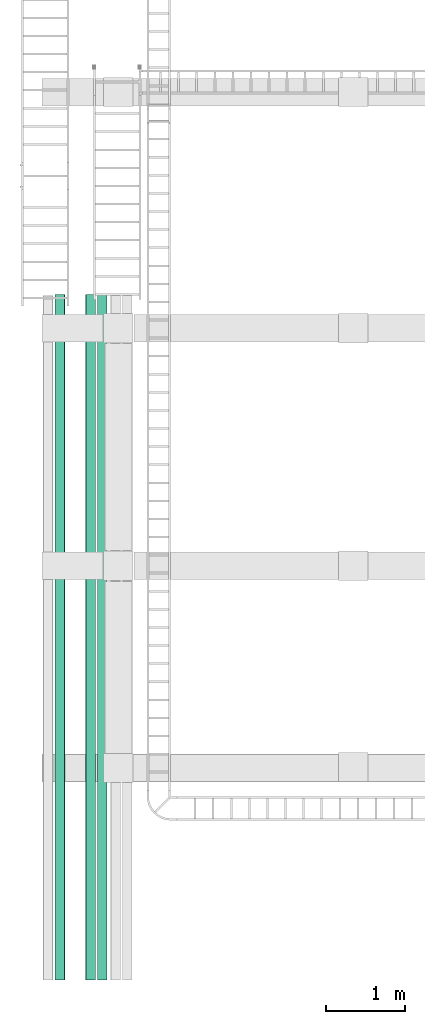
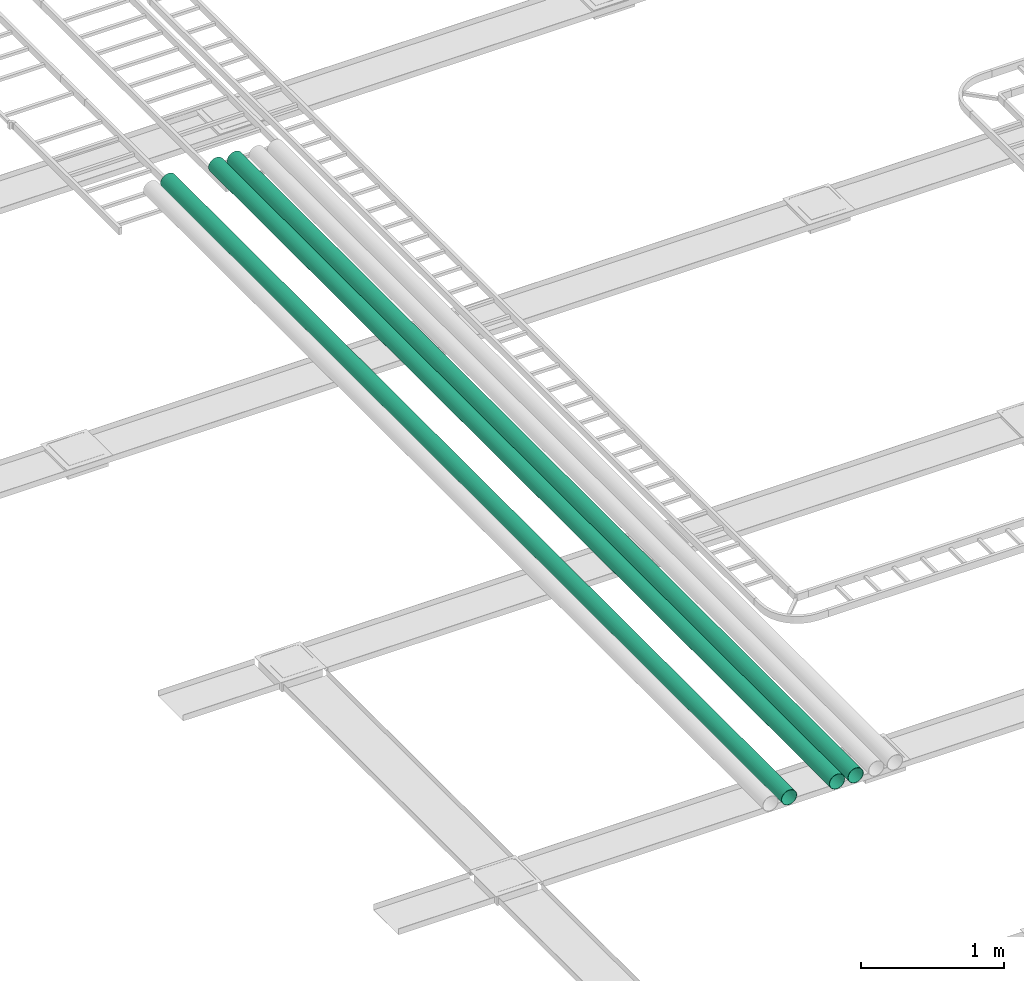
# One storey, part 4 of 16: 3 flow segments.
"""IFC2X3 building model written with IfcOpenShell, lengths in millimetres."""

from ifc_helpers import new_model, entity, si_unit, converted_unit, derived_unit, direction, frame, place, context, subcontext, project, spatial, faceted_brep, type_object, element, save


model = new_model("IFC2X3")

# Units and contexts
model_context = context("Model", 3, precision=0.01, world=frame((0.0, 4.29681676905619e-09, 0.0)), true_north=direction((4.01073788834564e-13, 1.0)))
plan_context = context("Plan", 3, precision=0.01, world=frame((0.0, 4.29681676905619e-09, 0.0)), true_north=direction((4.01073788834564e-13, 1.0)))
body_context = subcontext(model_context, "Body", "Model", "MODEL_VIEW")
ifc_project = project(units=[converted_unit("PLANEANGLEUNIT", "DEGREE", entity("IfcPositiveLengthMeasure", 0.0174532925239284), si_unit("PLANEANGLEUNIT", "RADIAN"), dimensions=[0, 0, 0, 0, 0, 0, 0]), si_unit("AREAUNIT", "SQUARE_METRE"), si_unit("LENGTHUNIT", "METRE", prefix="MILLI"), si_unit("MASSUNIT", "GRAM", prefix="KILO"), si_unit("POWERUNIT", "WATT"), si_unit("PRESSUREUNIT", "PASCAL"), si_unit("FORCEUNIT", "NEWTON", prefix="KILO"), si_unit("ELECTRICVOLTAGEUNIT", "VOLT"), si_unit("ELECTRICCURRENTUNIT", "AMPERE"), si_unit("THERMODYNAMICTEMPERATUREUNIT", "DEGREE_CELSIUS"), si_unit("TIMEUNIT", "SECOND"), si_unit("VOLUMEUNIT", "CUBIC_METRE"), derived_unit("LINEARVELOCITYUNIT", [(si_unit("LENGTHUNIT", "METRE"), 1), (si_unit("TIMEUNIT", "SECOND"), -1)]), derived_unit("VOLUMETRICFLOWRATEUNIT", [(si_unit("VOLUMEUNIT", "CUBIC_METRE"), 1), (si_unit("TIMEUNIT", "SECOND"), -1)]), derived_unit("THERMALTRANSMITTANCEUNIT", [(si_unit("POWERUNIT", "WATT"), 1), (si_unit("THERMODYNAMICTEMPERATUREUNIT", "KELVIN"), -1), (si_unit("AREAUNIT", "SQUARE_METRE"), -1)]), derived_unit("SOUNDPRESSUREUNIT", [(si_unit("PRESSUREUNIT", "PASCAL"), 1)])], contexts=[model_context, plan_context])

# Site, building, storey
site_placement = place(None, frame((0.0, -4.29681676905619e-09, 0.0), z_axis=(0.0, 0.0, 1.0), x_axis=(1.0, 0.0, 0.0)))
site = spatial("IfcSite", under=ifc_project, at=site_placement, Name="ENGM", CompositionType="ELEMENT")
building_placement = place(site_placement, frame((0.0, 4.29681676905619e-09, 0.0), z_axis=(0.0, 0.0, 1.0), x_axis=(1.0, 0.0, 0.0)))
building = spatial("IfcBuilding", under=site, at=building_placement, Name="TS", CompositionType="ELEMENT")
storey_placement = place(building_placement, frame((0.0, 0.0, 210900.0), z_axis=(0.0, 0.0, 1.0), x_axis=(1.0, 0.0, 0.0)))
storey = spatial("IfcBuildingStorey", under=building, at=storey_placement, Name="Nivå F", CompositionType="ELEMENT", Elevation=210900.0)

# Flow segments
cable_carrier_segment_type = type_object("IfcCableCarrierSegmentType", Name="Conduit", PredefinedType="CONDUITSEGMENT")
flow_segment_1_placement = place(storey_placement, frame((520772.72097, 435146.75607, 4100.0), z_axis=(0.0, 0.0, 1.0), x_axis=(0.0, 1.0, 0.0)))
element("IfcFlowSegment", 1, at=flow_segment_1_placement, inside=storey, type_object=cable_carrier_segment_type, Name="Conduit", context=body_context, shape_type="Brep", body=[
    faceted_brep([(5628.24392999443, 59.5808690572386, -10.5057147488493), (5628.24392999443, 60.5, 0.0), (14295.1, 60.5, 0.0), (14295.1, 59.5808690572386, -10.5057147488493), (5628.24392999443, 56.8514035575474, -20.692218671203), (14295.1, 56.8514035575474, -20.692218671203), (5628.24392999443, 52.3945369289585, -30.25), (14295.1, 52.3945369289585, -30.25), (5628.24392999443, 46.3456888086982, -38.8886503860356), (14295.1, 46.3456888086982, -38.8886503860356), (5628.24392999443, 38.8886503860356, -46.3456888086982), (14295.1, 38.8886503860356, -46.3456888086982), (5628.24392999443, 30.25, -52.3945369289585), (14295.1, 30.25, -52.3945369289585), (5628.24392999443, 20.6922186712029, -56.8514035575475), (14295.1, 20.6922186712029, -56.8514035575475), (5628.24392999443, 10.5057147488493, -59.5808690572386), (14295.1, 10.5057147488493, -59.5808690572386), (5628.24392999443, -1.11136697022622e-14, -60.5), (14295.1, -1.11136697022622e-14, -60.5), (5628.24392999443, -10.5057147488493, -59.5808690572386), (14295.1, -10.5057147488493, -59.5808690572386), (5628.24392999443, -20.692218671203, -56.8514035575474), (14295.1, -20.692218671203, -56.8514035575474), (5628.24392999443, -30.25, -52.3945369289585), (14295.1, -30.25, -52.3945369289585), (5628.24392999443, -38.8886503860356, -46.3456888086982), (14295.1, -38.8886503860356, -46.3456888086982), (5628.24392999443, -46.3456888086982, -38.8886503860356), (14295.1, -46.3456888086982, -38.8886503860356), (5628.24392999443, -52.3945369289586, -30.25), (14295.1, -52.3945369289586, -30.25), (5628.24392999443, -56.8514035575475, -20.692218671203), (14295.1, -56.8514035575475, -20.692218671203), (5628.24392999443, -59.5808690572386, -10.5057147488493), (14295.1, -59.5808690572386, -10.5057147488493), (5628.24392999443, -60.5, 7.40911313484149e-15), (14295.1, -60.5, 7.40911313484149e-15), (5628.24392999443, -59.5808690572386, 10.5057147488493), (14295.1, -59.5808690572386, 10.5057147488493), (5628.24392999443, -56.8514035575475, 20.692218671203), (14295.1, -56.8514035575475, 20.692218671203), (5628.24392999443, -52.3945369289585, 30.25), (14295.1, -52.3945369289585, 30.25), (5628.24392999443, -46.3456888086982, 38.8886503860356), (14295.1, -46.3456888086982, 38.8886503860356), (5628.24392999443, -38.8886503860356, 46.3456888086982), (14295.1, -38.8886503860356, 46.3456888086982), (5628.24392999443, -30.25, 52.3945369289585), (14295.1, -30.25, 52.3945369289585), (5628.24392999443, -20.692218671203, 56.8514035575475), (14295.1, -20.692218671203, 56.8514035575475), (5628.24392999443, -10.5057147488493, 59.5808690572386), (14295.1, -10.5057147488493, 59.5808690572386), (5628.24392999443, 3.70455656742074e-15, 60.5), (14295.1, 3.70455656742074e-15, 60.5), (5628.24392999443, 10.5057147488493, 59.5808690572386), (14295.1, 10.5057147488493, 59.5808690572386), (5628.24392999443, 20.692218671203, 56.8514035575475), (14295.1, 20.692218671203, 56.8514035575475), (5628.24392999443, 30.25, 52.3945369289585), (14295.1, 30.25, 52.3945369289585), (5628.24392999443, 38.8886503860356, 46.3456888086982), (14295.1, 38.8886503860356, 46.3456888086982), (5628.24392999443, 46.3456888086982, 38.8886503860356), (14295.1, 46.3456888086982, 38.8886503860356), (5628.24392999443, 52.3945369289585, 30.25), (14295.1, 52.3945369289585, 30.25), (5628.24392999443, 56.8514035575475, 20.692218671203), (14295.1, 56.8514035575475, 20.692218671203), (5628.24392999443, 59.5808690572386, 10.5057147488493), (14295.1, 59.5808690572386, 10.5057147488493), (5628.24392999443, 62.5, 0.0), (5628.24392999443, 61.550484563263, -10.8530111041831), (14295.1, 61.550484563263, -10.8530111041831), (14295.1, 62.5, 0.0), (5628.24392999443, 61.550484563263, 10.8530111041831), (14295.1, 61.550484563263, 10.8530111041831), (5628.24392999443, 58.7307887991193, 21.3762589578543), (14295.1, 58.7307887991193, 21.3762589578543), (5628.24392999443, 54.1265877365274, 31.25), (14295.1, 54.1265877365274, 31.25), (5628.24392999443, 47.8777776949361, 40.1742256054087), (14295.1, 47.8777776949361, 40.1742256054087), (5628.24392999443, 40.1742256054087, 47.8777776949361), (14295.1, 40.1742256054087, 47.8777776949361), (5628.24392999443, 31.25, 54.1265877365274), (14295.1, 31.25, 54.1265877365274), (5628.24392999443, 21.3762589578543, 58.7307887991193), (14295.1, 21.3762589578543, 58.7307887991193), (5628.24392999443, 10.8530111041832, 61.550484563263), (14295.1, 10.8530111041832, 61.550484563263), (5628.24392999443, 3.82702124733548e-15, 62.5), (14295.1, 3.82702124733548e-15, 62.5), (5628.24392999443, -10.8530111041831, 61.550484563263), (14295.1, -10.8530111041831, 61.550484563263), (5628.24392999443, -21.3762589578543, 58.7307887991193), (14295.1, -21.3762589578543, 58.7307887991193), (5628.24392999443, -31.25, 54.1265877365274), (14295.1, -31.25, 54.1265877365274), (5628.24392999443, -40.1742256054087, 47.8777776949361), (14295.1, -40.1742256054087, 47.8777776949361), (5628.24392999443, -47.8777776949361, 40.1742256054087), (14295.1, -47.8777776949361, 40.1742256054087), (5628.24392999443, -54.1265877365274, 31.25), (14295.1, -54.1265877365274, 31.25), (5628.24392999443, -58.7307887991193, 21.3762589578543), (14295.1, -58.7307887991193, 21.3762589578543), (5628.24392999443, -61.550484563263, 10.8530111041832), (14295.1, -61.550484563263, 10.8530111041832), (5628.24392999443, -62.5, 7.65404249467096e-15), (14295.1, -62.5, 7.65404249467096e-15), (5628.24392999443, -61.550484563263, -10.8530111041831), (14295.1, -61.550484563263, -10.8530111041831), (5628.24392999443, -58.7307887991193, -21.3762589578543), (14295.1, -58.7307887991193, -21.3762589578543), (5628.24392999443, -54.1265877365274, -31.25), (14295.1, -54.1265877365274, -31.25), (5628.24392999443, -47.8777776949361, -40.1742256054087), (14295.1, -47.8777776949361, -40.1742256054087), (5628.24392999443, -40.1742256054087, -47.8777776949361), (14295.1, -40.1742256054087, -47.8777776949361), (5628.24392999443, -31.25, -54.1265877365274), (14295.1, -31.25, -54.1265877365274), (5628.24392999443, -21.3762589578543, -58.7307887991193), (14295.1, -21.3762589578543, -58.7307887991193), (5628.24392999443, -10.8530111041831, -61.550484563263), (14295.1, -10.8530111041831, -61.550484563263), (5628.24392999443, -1.14810637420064e-14, -62.5), (14295.1, -1.14810637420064e-14, -62.5), (5628.24392999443, 10.8530111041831, -61.550484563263), (14295.1, 10.8530111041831, -61.550484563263), (5628.24392999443, 21.3762589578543, -58.7307887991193), (14295.1, 21.3762589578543, -58.7307887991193), (5628.24392999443, 31.25, -54.1265877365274), (14295.1, 31.25, -54.1265877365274), (5628.24392999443, 40.1742256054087, -47.8777776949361), (14295.1, 40.1742256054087, -47.8777776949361), (5628.24392999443, 47.8777776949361, -40.1742256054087), (14295.1, 47.8777776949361, -40.1742256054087), (5628.24392999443, 54.1265877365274, -31.25), (14295.1, 54.1265877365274, -31.25), (5628.24392999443, 58.7307887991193, -21.3762589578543), (14295.1, 58.7307887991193, -21.3762589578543)], [[[0, 1, 2, 3]], [[4, 0, 3, 5]], [[6, 4, 5, 7]], [[8, 6, 7, 9]], [[10, 8, 9, 11]], [[12, 10, 11, 13]], [[14, 12, 13, 15]], [[16, 14, 15, 17]], [[18, 16, 17, 19]], [[20, 18, 19, 21]], [[22, 20, 21, 23]], [[24, 22, 23, 25]], [[26, 24, 25, 27]], [[28, 26, 27, 29]], [[30, 28, 29, 31]], [[32, 30, 31, 33]], [[34, 32, 33, 35]], [[36, 34, 35, 37]], [[38, 36, 37, 39]], [[40, 38, 39, 41]], [[42, 40, 41, 43]], [[44, 42, 43, 45]], [[46, 44, 45, 47]], [[48, 46, 47, 49]], [[50, 48, 49, 51]], [[52, 50, 51, 53]], [[54, 52, 53, 55]], [[56, 54, 55, 57]], [[58, 56, 57, 59]], [[60, 58, 59, 61]], [[62, 60, 61, 63]], [[64, 62, 63, 65]], [[66, 64, 65, 67]], [[68, 66, 67, 69]], [[70, 68, 69, 71]], [[1, 70, 71, 2]], [[72, 73, 74, 75]], [[76, 72, 75, 77]], [[78, 76, 77, 79]], [[80, 78, 79, 81]], [[82, 80, 81, 83]], [[84, 82, 83, 85]], [[86, 84, 85, 87]], [[88, 86, 87, 89]], [[90, 88, 89, 91]], [[92, 90, 91, 93]], [[94, 92, 93, 95]], [[96, 94, 95, 97]], [[98, 96, 97, 99]], [[100, 98, 99, 101]], [[102, 100, 101, 103]], [[104, 102, 103, 105]], [[106, 104, 105, 107]], [[108, 106, 107, 109]], [[110, 108, 109, 111]], [[112, 110, 111, 113]], [[114, 112, 113, 115]], [[116, 114, 115, 117]], [[118, 116, 117, 119]], [[120, 118, 119, 121]], [[122, 120, 121, 123]], [[124, 122, 123, 125]], [[126, 124, 125, 127]], [[128, 126, 127, 129]], [[130, 128, 129, 131]], [[132, 130, 131, 133]], [[134, 132, 133, 135]], [[136, 134, 135, 137]], [[138, 136, 137, 139]], [[140, 138, 139, 141]], [[142, 140, 141, 143]], [[73, 142, 143, 74]], [[75, 74, 143, 141, 139, 137, 135, 133, 131, 129, 127, 125, 123, 121, 119, 117, 115, 113, 111, 109, 107, 105, 103, 101, 99, 97, 95, 93, 91, 89, 87, 85, 83, 81, 79, 77], [2, 71, 69, 67, 65, 63, 61, 59, 57, 55, 53, 51, 49, 47, 45, 43, 41, 39, 37, 35, 33, 31, 29, 27, 25, 23, 21, 19, 17, 15, 13, 11, 9, 7, 5, 3]], [[76, 78, 80, 82, 84, 86, 88, 90, 92, 94, 96, 98, 100, 102, 104, 106, 108, 110, 112, 114, 116, 118, 120, 122, 124, 126, 128, 130, 132, 134, 136, 138, 140, 142, 73, 72], [4, 6, 8, 10, 12, 14, 16, 18, 20, 22, 24, 26, 28, 30, 32, 34, 36, 38, 40, 42, 44, 46, 48, 50, 52, 54, 56, 58, 60, 62, 64, 66, 68, 70, 1, 0]]], orient=[[False], [False], [False], [False], [False], [False], [False], [False], [False], [False], [False], [False], [False], [False], [False], [False], [False], [False], [False], [False], [False], [False], [False], [False], [False], [False], [False], [False], [False], [False], [False], [False], [False], [False], [False], [False], [False], [False], [False], [False], [False], [False], [False], [False], [False], [False], [False], [False], [False], [False], [False], [False], [False], [False], [False], [False], [False], [False], [False], [False], [False], [False], [False], [False], [False], [False], [False], [False], [False], [False], [False], [False], [False, False], [False, False]]),
])
flow_segment_2_placement = place(storey_placement, frame((521159.06901, 449441.84531, 4100.0), z_axis=(0.0, 0.0, 1.0), x_axis=(0.0, -1.0, 0.0)))
element("IfcFlowSegment", 2, at=flow_segment_2_placement, inside=storey, type_object=cable_carrier_segment_type, Name="Conduit", context=body_context, shape_type="Brep", body=[
    faceted_brep([(8666.84531000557, 60.5, 0.0), (8666.84531000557, 59.5808690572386, -10.5057147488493), (0.0, 59.5808690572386, -10.5057147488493), (0.0, 60.5, 0.0), (8666.84531000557, 56.8514035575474, -20.692218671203), (0.0, 56.8514035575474, -20.692218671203), (8666.84531000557, 52.3945369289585, -30.25), (0.0, 52.3945369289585, -30.25), (8666.84531000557, 46.3456888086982, -38.8886503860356), (0.0, 46.3456888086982, -38.8886503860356), (8666.84531000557, 38.8886503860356, -46.3456888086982), (0.0, 38.8886503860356, -46.3456888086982), (8666.84531000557, 30.25, -52.3945369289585), (0.0, 30.25, -52.3945369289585), (8666.84531000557, 20.6922186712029, -56.8514035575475), (0.0, 20.6922186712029, -56.8514035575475), (8666.84531000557, 10.5057147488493, -59.5808690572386), (0.0, 10.5057147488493, -59.5808690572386), (8666.84531000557, -1.11136697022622e-14, -60.5), (0.0, -1.11136697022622e-14, -60.5), (8666.84531000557, -10.5057147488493, -59.5808690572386), (0.0, -10.5057147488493, -59.5808690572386), (8666.84531000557, -20.692218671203, -56.8514035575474), (0.0, -20.692218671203, -56.8514035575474), (8666.84531000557, -30.25, -52.3945369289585), (0.0, -30.25, -52.3945369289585), (8666.84531000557, -38.8886503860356, -46.3456888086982), (0.0, -38.8886503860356, -46.3456888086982), (8666.84531000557, -46.3456888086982, -38.8886503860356), (0.0, -46.3456888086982, -38.8886503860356), (8666.84531000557, -52.3945369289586, -30.25), (0.0, -52.3945369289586, -30.25), (8666.84531000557, -56.8514035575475, -20.692218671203), (0.0, -56.8514035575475, -20.692218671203), (8666.84531000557, -59.5808690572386, -10.5057147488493), (0.0, -59.5808690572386, -10.5057147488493), (8666.84531000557, -60.5, 7.40911313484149e-15), (0.0, -60.5, 7.40911313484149e-15), (8666.84531000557, -59.5808690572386, 10.5057147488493), (0.0, -59.5808690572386, 10.5057147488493), (8666.84531000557, -56.8514035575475, 20.692218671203), (0.0, -56.8514035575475, 20.692218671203), (8666.84531000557, -52.3945369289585, 30.25), (0.0, -52.3945369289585, 30.25), (8666.84531000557, -46.3456888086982, 38.8886503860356), (0.0, -46.3456888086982, 38.8886503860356), (8666.84531000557, -38.8886503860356, 46.3456888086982), (0.0, -38.8886503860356, 46.3456888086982), (8666.84531000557, -30.25, 52.3945369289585), (0.0, -30.25, 52.3945369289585), (8666.84531000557, -20.692218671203, 56.8514035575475), (0.0, -20.692218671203, 56.8514035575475), (8666.84531000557, -10.5057147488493, 59.5808690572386), (0.0, -10.5057147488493, 59.5808690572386), (8666.84531000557, 3.70455656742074e-15, 60.5), (0.0, 3.70455656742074e-15, 60.5), (8666.84531000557, 10.5057147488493, 59.5808690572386), (0.0, 10.5057147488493, 59.5808690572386), (8666.84531000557, 20.692218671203, 56.8514035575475), (0.0, 20.692218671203, 56.8514035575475), (8666.84531000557, 30.25, 52.3945369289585), (0.0, 30.25, 52.3945369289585), (8666.84531000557, 38.8886503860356, 46.3456888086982), (0.0, 38.8886503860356, 46.3456888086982), (8666.84531000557, 46.3456888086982, 38.8886503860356), (0.0, 46.3456888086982, 38.8886503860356), (8666.84531000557, 52.3945369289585, 30.25), (0.0, 52.3945369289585, 30.25), (8666.84531000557, 56.8514035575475, 20.692218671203), (0.0, 56.8514035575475, 20.692218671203), (8666.84531000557, 59.5808690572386, 10.5057147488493), (0.0, 59.5808690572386, 10.5057147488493), (8666.84531000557, 61.550484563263, -10.8530111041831), (8666.84531000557, 62.5, 0.0), (0.0, 62.5, 0.0), (0.0, 61.550484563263, -10.8530111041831), (8666.84531000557, 61.550484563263, 10.8530111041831), (0.0, 61.550484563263, 10.8530111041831), (8666.84531000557, 58.7307887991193, 21.3762589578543), (0.0, 58.7307887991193, 21.3762589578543), (8666.84531000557, 54.1265877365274, 31.25), (0.0, 54.1265877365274, 31.25), (8666.84531000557, 47.8777776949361, 40.1742256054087), (0.0, 47.8777776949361, 40.1742256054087), (8666.84531000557, 40.1742256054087, 47.8777776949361), (0.0, 40.1742256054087, 47.8777776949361), (8666.84531000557, 31.25, 54.1265877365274), (0.0, 31.25, 54.1265877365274), (8666.84531000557, 21.3762589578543, 58.7307887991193), (0.0, 21.3762589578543, 58.7307887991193), (8666.84531000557, 10.8530111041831, 61.550484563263), (0.0, 10.8530111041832, 61.550484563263), (8666.84531000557, 3.82702124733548e-15, 62.5), (0.0, 3.82702124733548e-15, 62.5), (8666.84531000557, -10.8530111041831, 61.550484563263), (0.0, -10.8530111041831, 61.550484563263), (8666.84531000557, -21.3762589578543, 58.7307887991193), (0.0, -21.3762589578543, 58.7307887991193), (8666.84531000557, -31.25, 54.1265877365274), (0.0, -31.25, 54.1265877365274), (8666.84531000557, -40.1742256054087, 47.8777776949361), (0.0, -40.1742256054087, 47.8777776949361), (8666.84531000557, -47.8777776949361, 40.1742256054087), (0.0, -47.8777776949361, 40.1742256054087), (8666.84531000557, -54.1265877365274, 31.25), (0.0, -54.1265877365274, 31.25), (8666.84531000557, -58.7307887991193, 21.3762589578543), (0.0, -58.7307887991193, 21.3762589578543), (8666.84531000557, -61.550484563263, 10.8530111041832), (0.0, -61.550484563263, 10.8530111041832), (8666.84531000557, -62.5, 7.65404249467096e-15), (0.0, -62.5, 7.65404249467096e-15), (8666.84531000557, -61.550484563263, -10.8530111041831), (0.0, -61.550484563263, -10.8530111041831), (8666.84531000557, -58.7307887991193, -21.3762589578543), (0.0, -58.7307887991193, -21.3762589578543), (8666.84531000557, -54.1265877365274, -31.25), (0.0, -54.1265877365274, -31.25), (8666.84531000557, -47.8777776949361, -40.1742256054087), (0.0, -47.8777776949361, -40.1742256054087), (8666.84531000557, -40.1742256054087, -47.8777776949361), (0.0, -40.1742256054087, -47.8777776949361), (8666.84531000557, -31.25, -54.1265877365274), (0.0, -31.25, -54.1265877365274), (8666.84531000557, -21.3762589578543, -58.7307887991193), (0.0, -21.3762589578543, -58.7307887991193), (8666.84531000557, -10.8530111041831, -61.550484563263), (0.0, -10.8530111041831, -61.550484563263), (8666.84531000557, -1.14810637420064e-14, -62.5), (0.0, -1.14810637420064e-14, -62.5), (8666.84531000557, 10.8530111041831, -61.550484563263), (0.0, 10.8530111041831, -61.550484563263), (8666.84531000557, 21.3762589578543, -58.7307887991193), (0.0, 21.3762589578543, -58.7307887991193), (8666.84531000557, 31.25, -54.1265877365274), (0.0, 31.25, -54.1265877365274), (8666.84531000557, 40.1742256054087, -47.8777776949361), (0.0, 40.1742256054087, -47.8777776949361), (8666.84531000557, 47.8777776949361, -40.1742256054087), (0.0, 47.8777776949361, -40.1742256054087), (8666.84531000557, 54.1265877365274, -31.25), (0.0, 54.1265877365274, -31.25), (8666.84531000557, 58.7307887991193, -21.3762589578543), (0.0, 58.7307887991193, -21.3762589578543)], [[[0, 1, 2, 3]], [[1, 4, 5, 2]], [[4, 6, 7, 5]], [[6, 8, 9, 7]], [[8, 10, 11, 9]], [[10, 12, 13, 11]], [[12, 14, 15, 13]], [[14, 16, 17, 15]], [[16, 18, 19, 17]], [[18, 20, 21, 19]], [[20, 22, 23, 21]], [[22, 24, 25, 23]], [[24, 26, 27, 25]], [[26, 28, 29, 27]], [[28, 30, 31, 29]], [[30, 32, 33, 31]], [[32, 34, 35, 33]], [[34, 36, 37, 35]], [[36, 38, 39, 37]], [[38, 40, 41, 39]], [[40, 42, 43, 41]], [[42, 44, 45, 43]], [[44, 46, 47, 45]], [[46, 48, 49, 47]], [[48, 50, 51, 49]], [[50, 52, 53, 51]], [[52, 54, 55, 53]], [[54, 56, 57, 55]], [[56, 58, 59, 57]], [[58, 60, 61, 59]], [[60, 62, 63, 61]], [[62, 64, 65, 63]], [[64, 66, 67, 65]], [[66, 68, 69, 67]], [[68, 70, 71, 69]], [[70, 0, 3, 71]], [[72, 73, 74, 75]], [[73, 76, 77, 74]], [[76, 78, 79, 77]], [[78, 80, 81, 79]], [[80, 82, 83, 81]], [[82, 84, 85, 83]], [[84, 86, 87, 85]], [[86, 88, 89, 87]], [[88, 90, 91, 89]], [[90, 92, 93, 91]], [[92, 94, 95, 93]], [[94, 96, 97, 95]], [[96, 98, 99, 97]], [[98, 100, 101, 99]], [[100, 102, 103, 101]], [[102, 104, 105, 103]], [[104, 106, 107, 105]], [[106, 108, 109, 107]], [[108, 110, 111, 109]], [[110, 112, 113, 111]], [[112, 114, 115, 113]], [[114, 116, 117, 115]], [[116, 118, 119, 117]], [[118, 120, 121, 119]], [[120, 122, 123, 121]], [[122, 124, 125, 123]], [[124, 126, 127, 125]], [[126, 128, 129, 127]], [[128, 130, 131, 129]], [[130, 132, 133, 131]], [[132, 134, 135, 133]], [[134, 136, 137, 135]], [[136, 138, 139, 137]], [[138, 140, 141, 139]], [[140, 142, 143, 141]], [[142, 72, 75, 143]], [[75, 74, 77, 79, 81, 83, 85, 87, 89, 91, 93, 95, 97, 99, 101, 103, 105, 107, 109, 111, 113, 115, 117, 119, 121, 123, 125, 127, 129, 131, 133, 135, 137, 139, 141, 143], [3, 2, 5, 7, 9, 11, 13, 15, 17, 19, 21, 23, 25, 27, 29, 31, 33, 35, 37, 39, 41, 43, 45, 47, 49, 51, 53, 55, 57, 59, 61, 63, 65, 67, 69, 71]], [[142, 140, 138, 136, 134, 132, 130, 128, 126, 124, 122, 120, 118, 116, 114, 112, 110, 108, 106, 104, 102, 100, 98, 96, 94, 92, 90, 88, 86, 84, 82, 80, 78, 76, 73, 72], [70, 68, 66, 64, 62, 60, 58, 56, 54, 52, 50, 48, 46, 44, 42, 40, 38, 36, 34, 32, 30, 28, 26, 24, 22, 20, 18, 16, 14, 12, 10, 8, 6, 4, 1, 0]]], orient=[[False], [False], [False], [False], [False], [False], [False], [False], [False], [False], [False], [False], [False], [False], [False], [False], [False], [False], [False], [False], [False], [False], [False], [False], [False], [False], [False], [False], [False], [False], [False], [False], [False], [False], [False], [False], [False], [False], [False], [False], [False], [False], [False], [False], [False], [False], [False], [False], [False], [False], [False], [False], [False], [False], [False], [False], [False], [False], [False], [False], [False], [False], [False], [False], [False], [False], [False], [False], [False], [False], [False], [False], [False, False], [False, False]]),
])
flow_segment_3_placement = place(storey_placement, frame((521309.08776, 449441.70823, 4100.0), z_axis=(0.0, 0.0, 1.0), x_axis=(0.0, -1.0, 0.0)))
element("IfcFlowSegment", 3, at=flow_segment_3_placement, inside=storey, type_object=cable_carrier_segment_type, Name="Conduit", context=body_context, shape_type="Brep", body=[
    faceted_brep([(8666.84531000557, 60.5, 0.0), (8666.84531000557, 59.5808690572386, -10.5057147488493), (0.0, 59.5808690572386, -10.5057147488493), (0.0, 60.5, 0.0), (8666.84531000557, 56.8514035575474, -20.692218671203), (0.0, 56.8514035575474, -20.692218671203), (8666.84531000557, 52.3945369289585, -30.25), (0.0, 52.3945369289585, -30.25), (8666.84531000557, 46.3456888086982, -38.8886503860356), (0.0, 46.3456888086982, -38.8886503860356), (8666.84531000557, 38.8886503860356, -46.3456888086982), (0.0, 38.8886503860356, -46.3456888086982), (8666.84531000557, 30.25, -52.3945369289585), (0.0, 30.25, -52.3945369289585), (8666.84531000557, 20.6922186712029, -56.8514035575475), (0.0, 20.6922186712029, -56.8514035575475), (8666.84531000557, 10.5057147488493, -59.5808690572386), (0.0, 10.5057147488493, -59.5808690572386), (8666.84531000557, -1.11136697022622e-14, -60.5), (0.0, -1.11136697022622e-14, -60.5), (8666.84531000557, -10.5057147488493, -59.5808690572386), (0.0, -10.5057147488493, -59.5808690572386), (8666.84531000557, -20.692218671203, -56.8514035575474), (0.0, -20.692218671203, -56.8514035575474), (8666.84531000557, -30.25, -52.3945369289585), (0.0, -30.25, -52.3945369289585), (8666.84531000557, -38.8886503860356, -46.3456888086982), (0.0, -38.8886503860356, -46.3456888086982), (8666.84531000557, -46.3456888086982, -38.8886503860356), (0.0, -46.3456888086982, -38.8886503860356), (8666.84531000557, -52.3945369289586, -30.25), (0.0, -52.3945369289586, -30.25), (8666.84531000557, -56.8514035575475, -20.692218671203), (0.0, -56.8514035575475, -20.692218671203), (8666.84531000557, -59.5808690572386, -10.5057147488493), (0.0, -59.5808690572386, -10.5057147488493), (8666.84531000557, -60.5, 7.40911313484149e-15), (0.0, -60.5, 7.40911313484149e-15), (8666.84531000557, -59.5808690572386, 10.5057147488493), (0.0, -59.5808690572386, 10.5057147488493), (8666.84531000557, -56.8514035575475, 20.692218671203), (0.0, -56.8514035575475, 20.692218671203), (8666.84531000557, -52.3945369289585, 30.25), (0.0, -52.3945369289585, 30.25), (8666.84531000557, -46.3456888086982, 38.8886503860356), (0.0, -46.3456888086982, 38.8886503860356), (8666.84531000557, -38.8886503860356, 46.3456888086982), (0.0, -38.8886503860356, 46.3456888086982), (8666.84531000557, -30.25, 52.3945369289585), (0.0, -30.25, 52.3945369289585), (8666.84531000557, -20.692218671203, 56.8514035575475), (0.0, -20.692218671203, 56.8514035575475), (8666.84531000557, -10.5057147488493, 59.5808690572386), (0.0, -10.5057147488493, 59.5808690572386), (8666.84531000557, 3.70455656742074e-15, 60.5), (0.0, 3.70455656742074e-15, 60.5), (8666.84531000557, 10.5057147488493, 59.5808690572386), (0.0, 10.5057147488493, 59.5808690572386), (8666.84531000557, 20.692218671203, 56.8514035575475), (0.0, 20.692218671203, 56.8514035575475), (8666.84531000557, 30.25, 52.3945369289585), (0.0, 30.25, 52.3945369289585), (8666.84531000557, 38.8886503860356, 46.3456888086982), (0.0, 38.8886503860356, 46.3456888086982), (8666.84531000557, 46.3456888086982, 38.8886503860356), (0.0, 46.3456888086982, 38.8886503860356), (8666.84531000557, 52.3945369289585, 30.25), (0.0, 52.3945369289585, 30.25), (8666.84531000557, 56.8514035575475, 20.692218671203), (0.0, 56.8514035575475, 20.692218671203), (8666.84531000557, 59.5808690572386, 10.5057147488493), (0.0, 59.5808690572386, 10.5057147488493), (8666.84531000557, 61.550484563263, -10.8530111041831), (8666.84531000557, 62.5, 0.0), (0.0, 62.5, 0.0), (0.0, 61.550484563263, -10.8530111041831), (8666.84531000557, 61.550484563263, 10.8530111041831), (0.0, 61.550484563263, 10.8530111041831), (8666.84531000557, 58.7307887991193, 21.3762589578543), (0.0, 58.7307887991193, 21.3762589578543), (8666.84531000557, 54.1265877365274, 31.25), (0.0, 54.1265877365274, 31.25), (8666.84531000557, 47.8777776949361, 40.1742256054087), (0.0, 47.8777776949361, 40.1742256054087), (8666.84531000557, 40.1742256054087, 47.8777776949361), (0.0, 40.1742256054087, 47.8777776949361), (8666.84531000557, 31.25, 54.1265877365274), (0.0, 31.25, 54.1265877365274), (8666.84531000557, 21.3762589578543, 58.7307887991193), (0.0, 21.3762589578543, 58.7307887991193), (8666.84531000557, 10.8530111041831, 61.550484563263), (0.0, 10.8530111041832, 61.550484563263), (8666.84531000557, 3.82702124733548e-15, 62.5), (0.0, 3.82702124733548e-15, 62.5), (8666.84531000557, -10.8530111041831, 61.550484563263), (0.0, -10.8530111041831, 61.550484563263), (8666.84531000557, -21.3762589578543, 58.7307887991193), (0.0, -21.3762589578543, 58.7307887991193), (8666.84531000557, -31.25, 54.1265877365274), (0.0, -31.25, 54.1265877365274), (8666.84531000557, -40.1742256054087, 47.8777776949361), (0.0, -40.1742256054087, 47.8777776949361), (8666.84531000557, -47.8777776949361, 40.1742256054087), (0.0, -47.8777776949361, 40.1742256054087), (8666.84531000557, -54.1265877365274, 31.25), (0.0, -54.1265877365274, 31.25), (8666.84531000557, -58.7307887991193, 21.3762589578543), (0.0, -58.7307887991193, 21.3762589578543), (8666.84531000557, -61.550484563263, 10.8530111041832), (0.0, -61.550484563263, 10.8530111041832), (8666.84531000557, -62.5, 7.65404249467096e-15), (0.0, -62.5, 7.65404249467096e-15), (8666.84531000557, -61.550484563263, -10.8530111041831), (0.0, -61.550484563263, -10.8530111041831), (8666.84531000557, -58.7307887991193, -21.3762589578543), (0.0, -58.7307887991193, -21.3762589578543), (8666.84531000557, -54.1265877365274, -31.25), (0.0, -54.1265877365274, -31.25), (8666.84531000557, -47.8777776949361, -40.1742256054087), (0.0, -47.8777776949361, -40.1742256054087), (8666.84531000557, -40.1742256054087, -47.8777776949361), (0.0, -40.1742256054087, -47.8777776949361), (8666.84531000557, -31.25, -54.1265877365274), (0.0, -31.25, -54.1265877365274), (8666.84531000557, -21.3762589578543, -58.7307887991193), (0.0, -21.3762589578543, -58.7307887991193), (8666.84531000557, -10.8530111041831, -61.550484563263), (0.0, -10.8530111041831, -61.550484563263), (8666.84531000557, -1.14810637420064e-14, -62.5), (0.0, -1.14810637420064e-14, -62.5), (8666.84531000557, 10.8530111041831, -61.550484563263), (0.0, 10.8530111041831, -61.550484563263), (8666.84531000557, 21.3762589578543, -58.7307887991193), (0.0, 21.3762589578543, -58.7307887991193), (8666.84531000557, 31.25, -54.1265877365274), (0.0, 31.25, -54.1265877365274), (8666.84531000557, 40.1742256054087, -47.8777776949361), (0.0, 40.1742256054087, -47.8777776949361), (8666.84531000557, 47.8777776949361, -40.1742256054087), (0.0, 47.8777776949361, -40.1742256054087), (8666.84531000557, 54.1265877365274, -31.25), (0.0, 54.1265877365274, -31.25), (8666.84531000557, 58.7307887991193, -21.3762589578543), (0.0, 58.7307887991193, -21.3762589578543)], [[[0, 1, 2, 3]], [[1, 4, 5, 2]], [[4, 6, 7, 5]], [[6, 8, 9, 7]], [[8, 10, 11, 9]], [[10, 12, 13, 11]], [[12, 14, 15, 13]], [[14, 16, 17, 15]], [[16, 18, 19, 17]], [[18, 20, 21, 19]], [[20, 22, 23, 21]], [[22, 24, 25, 23]], [[24, 26, 27, 25]], [[26, 28, 29, 27]], [[28, 30, 31, 29]], [[30, 32, 33, 31]], [[32, 34, 35, 33]], [[34, 36, 37, 35]], [[36, 38, 39, 37]], [[38, 40, 41, 39]], [[40, 42, 43, 41]], [[42, 44, 45, 43]], [[44, 46, 47, 45]], [[46, 48, 49, 47]], [[48, 50, 51, 49]], [[50, 52, 53, 51]], [[52, 54, 55, 53]], [[54, 56, 57, 55]], [[56, 58, 59, 57]], [[58, 60, 61, 59]], [[60, 62, 63, 61]], [[62, 64, 65, 63]], [[64, 66, 67, 65]], [[66, 68, 69, 67]], [[68, 70, 71, 69]], [[70, 0, 3, 71]], [[72, 73, 74, 75]], [[73, 76, 77, 74]], [[76, 78, 79, 77]], [[78, 80, 81, 79]], [[80, 82, 83, 81]], [[82, 84, 85, 83]], [[84, 86, 87, 85]], [[86, 88, 89, 87]], [[88, 90, 91, 89]], [[90, 92, 93, 91]], [[92, 94, 95, 93]], [[94, 96, 97, 95]], [[96, 98, 99, 97]], [[98, 100, 101, 99]], [[100, 102, 103, 101]], [[102, 104, 105, 103]], [[104, 106, 107, 105]], [[106, 108, 109, 107]], [[108, 110, 111, 109]], [[110, 112, 113, 111]], [[112, 114, 115, 113]], [[114, 116, 117, 115]], [[116, 118, 119, 117]], [[118, 120, 121, 119]], [[120, 122, 123, 121]], [[122, 124, 125, 123]], [[124, 126, 127, 125]], [[126, 128, 129, 127]], [[128, 130, 131, 129]], [[130, 132, 133, 131]], [[132, 134, 135, 133]], [[134, 136, 137, 135]], [[136, 138, 139, 137]], [[138, 140, 141, 139]], [[140, 142, 143, 141]], [[142, 72, 75, 143]], [[75, 74, 77, 79, 81, 83, 85, 87, 89, 91, 93, 95, 97, 99, 101, 103, 105, 107, 109, 111, 113, 115, 117, 119, 121, 123, 125, 127, 129, 131, 133, 135, 137, 139, 141, 143], [3, 2, 5, 7, 9, 11, 13, 15, 17, 19, 21, 23, 25, 27, 29, 31, 33, 35, 37, 39, 41, 43, 45, 47, 49, 51, 53, 55, 57, 59, 61, 63, 65, 67, 69, 71]], [[142, 140, 138, 136, 134, 132, 130, 128, 126, 124, 122, 120, 118, 116, 114, 112, 110, 108, 106, 104, 102, 100, 98, 96, 94, 92, 90, 88, 86, 84, 82, 80, 78, 76, 73, 72], [70, 68, 66, 64, 62, 60, 58, 56, 54, 52, 50, 48, 46, 44, 42, 40, 38, 36, 34, 32, 30, 28, 26, 24, 22, 20, 18, 16, 14, 12, 10, 8, 6, 4, 1, 0]]], orient=[[False], [False], [False], [False], [False], [False], [False], [False], [False], [False], [False], [False], [False], [False], [False], [False], [False], [False], [False], [False], [False], [False], [False], [False], [False], [False], [False], [False], [False], [False], [False], [False], [False], [False], [False], [False], [False], [False], [False], [False], [False], [False], [False], [False], [False], [False], [False], [False], [False], [False], [False], [False], [False], [False], [False], [False], [False], [False], [False], [False], [False], [False], [False], [False], [False], [False], [False], [False], [False], [False], [False], [False], [False, False], [False, False]]),
])

save(model, "model.ifc")
